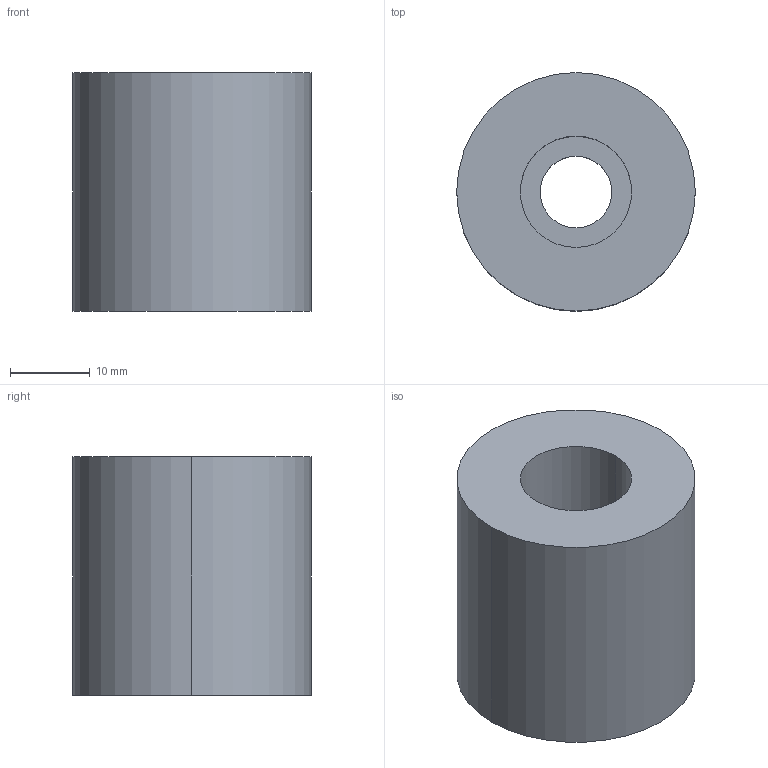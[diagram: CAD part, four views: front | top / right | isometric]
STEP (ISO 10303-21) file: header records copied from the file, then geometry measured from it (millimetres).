
FILE_DESCRIPTION(/* description */ (''),/* implementation_level */ '2;1');
FILE_NAME(/* name */ '3d_azn30-30_03256_r00.stp',/* time_stamp */ '2011-01-10T14:17:33+09:00',/* author */ ('MISUMI'),/* organization */ (''),/* preprocessor_version */ 'ST-DEVELOPER v11',/* originating_system */ 'UGS - NX 5.0',/* authorisation */ '');
FILE_SCHEMA (('CONFIG_CONTROL_DESIGN'));
Length unit declared in the file: millimetre
Products named in the file (1): 3d_azn30-30_03256_r00
Bounding box: 30 x 30 x 30 mm (x, y, z)
Volume: 17490.8 mm3; surface area: 5276.3 mm2
Topology: 1 solids, 1 shells, 9 faces, 18 edges, 12 vertices
Faces by surface type: cylinder 6, plane 3
Entity records: 334 total; most frequent: DIRECTION 50, CARTESIAN_POINT 40, ORIENTED_EDGE 36, AXIS2_PLACEMENT_3D 22, EDGE_CURVE 18, EDGE_LOOP 12, VERTEX_POINT 12, CIRCLE 12
